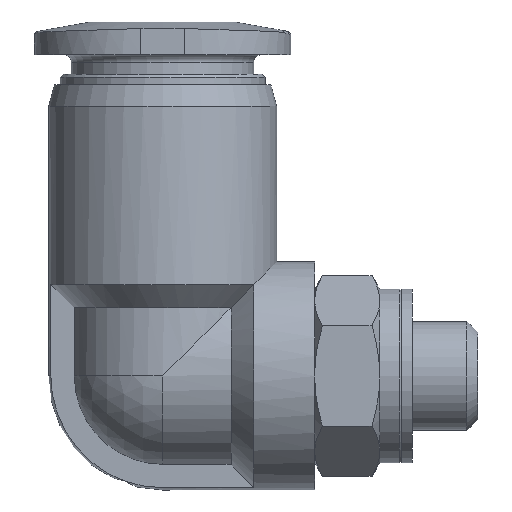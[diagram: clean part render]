
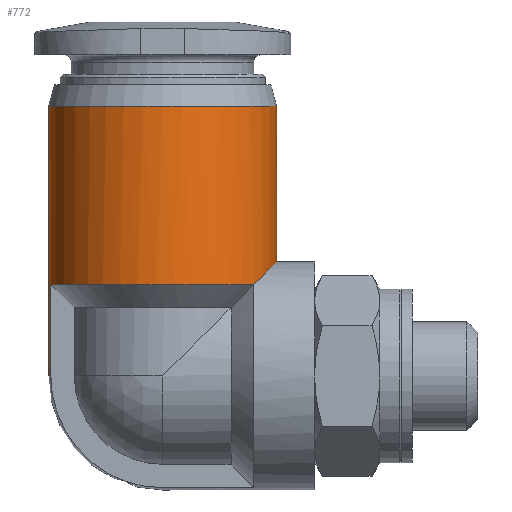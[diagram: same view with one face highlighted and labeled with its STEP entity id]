
A CAD part, front view. The second image highlights one B-rep face of the part: STEP entity #772.
In plain terms, the highlighted cylindrical face has radius 5.25 mm (diameter 10.5 mm), a partial arc.
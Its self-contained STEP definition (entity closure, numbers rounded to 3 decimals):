
#44 = DIRECTION ( 'NONE',  ( 0., 0., 1. ) ) ;
#68 = DIRECTION ( 'NONE',  ( 0., 0., 1. ) ) ;
#86 = DIRECTION ( 'NONE',  ( -1., 0., 0. ) ) ;
#175 = VERTEX_POINT ( 'NONE', #2197 ) ;
#201 = EDGE_LOOP ( 'NONE', ( #781, #981, #1886, #333, #1921, #1833, #2338 ) ) ;
#333 = ORIENTED_EDGE ( 'NONE', *, *, #1441, .T. ) ;
#430 = CARTESIAN_POINT ( 'NONE',  ( 0., 0., 0. ) ) ;
#523 = CARTESIAN_POINT ( 'NONE',  ( -5.25, 0., 12.42 ) ) ;
#530 = EDGE_CURVE ( 'NONE', #1619, #850, #1317, .T. ) ;
#551 = AXIS2_PLACEMENT_3D ( 'NONE', #1613, #1046, #1851 ) ;
#564 = AXIS2_PLACEMENT_3D ( 'NONE', #1355, #672, #942 ) ;
#583 = VERTEX_POINT ( 'NONE', #824 ) ;
#642 = CYLINDRICAL_SURFACE ( 'NONE', #564, 5.25 ) ;
#672 = DIRECTION ( 'NONE',  ( 0., 0., 1. ) ) ;
#674 = FACE_OUTER_BOUND ( 'NONE', #201, .T. ) ;
#746 = DIRECTION ( 'NONE',  ( 0., 0., 1. ) ) ;
#769 = VECTOR ( 'NONE', #773, 1000. ) ;
#772 = ADVANCED_FACE ( 'CYL_9', ( #674 ), #642, .T. ) ;
#773 = DIRECTION ( 'NONE',  ( 0., 0., -1. ) ) ;
#781 = ORIENTED_EDGE ( 'NONE', *, *, #1827, .F. ) ;
#784 = DIRECTION ( 'NONE',  ( 0., 0., 1. ) ) ;
#824 = CARTESIAN_POINT ( 'NONE',  ( 4.2, -3.15, 4.2 ) ) ;
#850 = VERTEX_POINT ( 'NONE', #1760 ) ;
#874 = EDGE_CURVE ( 'NONE', #1927, #2172, #1478, .T. ) ;
#942 = DIRECTION ( 'NONE',  ( 1., 0., 0. ) ) ;
#950 = CARTESIAN_POINT ( 'NONE',  ( 0., 0., 12.42 ) ) ;
#953 = LINE ( 'NONE', #1855, #1798 ) ;
#981 = ORIENTED_EDGE ( 'NONE', *, *, #1649, .T. ) ;
#1026 = EDGE_CURVE ( 'NONE', #583, #1549, #2322, .T. ) ;
#1046 = DIRECTION ( 'NONE',  ( 0., 0., 1. ) ) ;
#1156 = DIRECTION ( 'NONE',  ( 1., 0., 0. ) ) ;
#1194 = CARTESIAN_POINT ( 'NONE',  ( -5.144, -1.05, 4.2 ) ) ;
#1196 = CARTESIAN_POINT ( 'NONE',  ( 4.888, -2.233, 4.888 ) ) ;
#1273 = CARTESIAN_POINT ( 'NONE',  ( -5.25, 0., 0. ) ) ;
#1317 = CIRCLE ( 'NONE', #1680, 5.25 ) ;
#1325 = VECTOR ( 'NONE', #44, 1000. ) ;
#1346 = CIRCLE ( 'NONE', #551, 5.25 ) ;
#1355 = CARTESIAN_POINT ( 'NONE',  ( 0., 0., 0. ) ) ;
#1357 = CARTESIAN_POINT ( 'NONE',  ( 5.25, 0., 5.25 ) ) ;
#1441 = EDGE_CURVE ( 'NONE', #1927, #583, #1346, .T. ) ;
#1478 = LINE ( 'NONE', #1194, #769 ) ;
#1549 = VERTEX_POINT ( 'NONE', #2263 ) ;
#1613 = CARTESIAN_POINT ( 'NONE',  ( 0., 0., 4.2 ) ) ;
#1619 = VERTEX_POINT ( 'NONE', #523 ) ;
#1637 = CARTESIAN_POINT ( 'NONE',  ( -5.144, -1.05, 0. ) ) ;
#1649 = EDGE_CURVE ( 'NONE', #175, #2172, #1959, .T. ) ;
#1680 = AXIS2_PLACEMENT_3D ( 'NONE', #950, #746, #1156 ) ;
#1760 = CARTESIAN_POINT ( 'NONE',  ( 5.25, 0., 12.42 ) ) ;
#1798 = VECTOR ( 'NONE', #68, 1000. ) ;
#1813 = CARTESIAN_POINT ( 'NONE',  ( -5.144, -1.05, 4.2 ) ) ;
#1827 = EDGE_CURVE ( 'NONE', #175, #1619, #1863, .T. ) ;
#1833 = ORIENTED_EDGE ( 'NONE', *, *, #1858, .T. ) ;
#1851 = DIRECTION ( 'NONE',  ( 1., 0., 0. ) ) ;
#1855 = CARTESIAN_POINT ( 'NONE',  ( 5.25, 0., 0. ) ) ;
#1858 = EDGE_CURVE ( 'NONE', #1549, #850, #953, .T. ) ;
#1863 = LINE ( 'NONE', #1273, #1325 ) ;
#1886 = ORIENTED_EDGE ( 'NONE', *, *, #874, .F. ) ;
#1921 = ORIENTED_EDGE ( 'NONE', *, *, #1026, .T. ) ;
#1927 = VERTEX_POINT ( 'NONE', #1813 ) ;
#1959 = CIRCLE ( 'NONE', #2410, 5.25 ) ;
#2142 = CARTESIAN_POINT ( 'NONE',  ( 4.2, -3.15, 4.2 ) ) ;
#2172 = VERTEX_POINT ( 'NONE', #1637 ) ;
#2197 = CARTESIAN_POINT ( 'NONE',  ( -5.25, 0., 0. ) ) ;
#2263 = CARTESIAN_POINT ( 'NONE',  ( 5.25, 0., 5.25 ) ) ;
#2322 =( BOUNDED_CURVE ( )  B_SPLINE_CURVE ( 3, ( #2142, #1196, #2570, #1357 ),
 .UNSPECIFIED., .F., .F. ) 
 B_SPLINE_CURVE_WITH_KNOTS ( ( 4, 4 ),
 ( 2.498, 3.142 ),
 .UNSPECIFIED. ) 
 CURVE ( )  GEOMETRIC_REPRESENTATION_ITEM ( )  RATIONAL_B_SPLINE_CURVE ( ( 1., 0.966, 0.966, 1. ) ) 
 REPRESENTATION_ITEM ( '' )  );
#2338 = ORIENTED_EDGE ( 'NONE', *, *, #530, .F. ) ;
#2410 = AXIS2_PLACEMENT_3D ( 'NONE', #430, #784, #86 ) ;
#2570 = CARTESIAN_POINT ( 'NONE',  ( 5.25, -1.146, 5.25 ) ) ;
